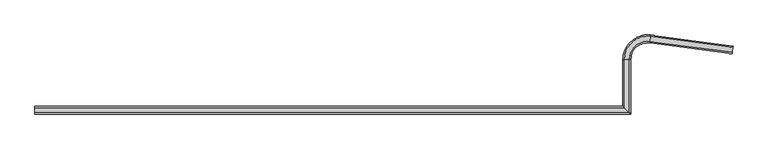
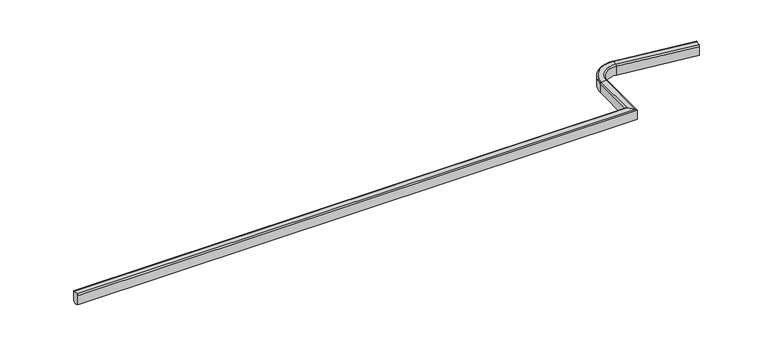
"""IFC4 building model written with IfcOpenShell, lengths in millimetres: railing geometry, Hedge 750mm High."""

from ifc_helpers import new_model, si_unit, point, frame, origin, place, context, project, spatial, polyline, circle_curve, ellipse_curve, trimmed, source, transform, mapped, element, save
from ifc_brep_helpers import plane_surface, cylinder_surface, revolved_surface, advanced_brep


def railing_7c37f561(model_context):
    return source(origin(), model_context, "Body", "AdvancedBrep", [
        advanced_brep(
        [(-6974.4651248, 12008.8683104, 3550.0), (-7014.0748551, 11711.4946914, 3550.0), (-7023.9772877, 11637.1512867, 3475.0), (-7023.9772877, 11637.1512867, 2900.0), (-7000.2114495, 11815.5754581, 2800.0), (-6988.3285304, 11904.7875438, 2800.0), (-6964.5626923, 12083.2117152, 2900.0), (-6964.5626923, 12083.2117152, 3475.0), (-11762.5079616, 12268.3166282, 3475.0), (-11762.5079616, 12268.3166282, 2900.0), (-11712.9957988, 12640.0336519, 3550.0), (-11752.6055291, 12342.6600329, 3550.0), (-12868.0232368, 11300.2905414, 2900.0), (-12868.0232368, 11300.2905414, 3475.0), (-12868.0232368, 8161.332771, 3475.0), (-12868.0232368, 8161.332771, 2900.0), (-12943.0232368, 11300.2905414, 3550.0), (-13243.0232368, 11300.2905414, 3550.0), (-13243.0232368, 8536.332771, 3550.0), (-12943.0232368, 8236.332771, 3550.0), (-47230.3056755, 8536.332771, 3550.0), (-47230.3056755, 8611.332771, 3475.0), (-47230.3056755, 8611.332771, 2900.0), (-47230.3056755, 8431.332771, 2800.0), (-47230.3056755, 8341.332771, 2800.0), (-47230.3056755, 8161.332771, 2900.0), (-47230.3056755, 8161.332771, 3475.0), (-47230.3056755, 8236.332771, 3550.0), (-11738.7421235, 12446.7407996, 2800.0), (-11726.8592044, 12535.9528852, 2800.0), (-11703.0933663, 12714.3770566, 2900.0), (-11703.0933663, 12714.3770566, 3475.0), (-13048.0232368, 11300.2905414, 2800.0), (-13048.0232368, 8341.332771, 2800.0), (-13138.0232368, 11300.2905414, 2800.0), (-13138.0232368, 8431.332771, 2800.0), (-13318.0232368, 11300.2905414, 2900.0), (-13318.0232368, 8611.332771, 2900.0), (-13318.0232368, 11300.2905414, 3475.0), (-13318.0232368, 8611.332771, 3475.0)],
        [
            (0, 1),
            (1, 2, circle_curve(frame((-7014.0748551, 11711.4946914, 3475.0), z_axis=(0.9912453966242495, -0.13203243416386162, 0.0), x_axis=(0.13203243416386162, 0.9912453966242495, 0.0)), 75.0)),
            (2, 3),
            (3, 4),
            (4, 5),
            (5, 6),
            (6, 7),
            (7, 0, circle_curve(frame((-6974.4651248, 12008.8683104, 3475.0), z_axis=(0.9912453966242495, -0.13203243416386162, 0.0), x_axis=(0.13203243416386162, 0.9912453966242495, 0.0)), 75.0)),
            (2, 8),
            (8, 9),
            (9, 3),
            (0, 10),
            (10, 11),
            (11, 1),
            (12, 13),
            (13, 14),
            (14, 15),
            (15, 12),
            (16, 17),
            (17, 18),
            (18, 19),
            (19, 16),
            (20, 21, circle_curve(frame((-47230.3056755, 8536.332771, 3475.0), z_axis=(-1.0, 0.0, 0.0), x_axis=(0.0, 1.0, 0.0)), 75.0)),
            (21, 22),
            (22, 23),
            (23, 24),
            (24, 25),
            (25, 26),
            (26, 27, circle_curve(frame((-47230.3056755, 8236.332771, 3475.0), z_axis=(-1.0, 0.0, 0.0), x_axis=(0.0, 1.0, 0.0)), 75.0)),
            (27, 20),
            (14, 26),
            (25, 15),
            (18, 20),
            (27, 19),
            (11, 8, circle_curve(frame((-11752.6055291, 12342.6600329, 3475.0), z_axis=(0.9912453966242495, -0.13203243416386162, 0.0), x_axis=(0.13203243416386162, 0.9912453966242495, 0.0)), 75.0)),
            (9, 28),
            (28, 4),
            (28, 29),
            (29, 5),
            (29, 30),
            (30, 6),
            (30, 31),
            (31, 7),
            (31, 10, circle_curve(frame((-11712.9957988, 12640.0336519, 3475.0), z_axis=(0.9912453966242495, -0.13203243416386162, 0.0), x_axis=(0.13203243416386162, 0.9912453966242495, 0.0)), 75.0)),
            (13, 16, circle_curve(frame((-12943.0232368, 11300.2905414, 3475.0), z_axis=(0.0, -1.0, 0.0), x_axis=(-1.0, 0.0, 0.0)), 75.0)),
            (19, 14, ellipse_curve(frame((-12943.0232368, 8236.332771, 3475.0), z_axis=(0.7071067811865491, 0.7071067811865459, 0.0), x_axis=(-0.7071067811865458, 0.7071067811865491, 0.0)), 106.0660172, 75.0)),
            (32, 12),
            (15, 33),
            (33, 32),
            (34, 32),
            (33, 35),
            (35, 34),
            (36, 34),
            (35, 37),
            (37, 36),
            (38, 36),
            (37, 39),
            (39, 38),
            (17, 38, circle_curve(frame((-13243.0232368, 11300.2905414, 3475.0), z_axis=(0.0, -1.0, 0.0), x_axis=(-1.0, 0.0, 0.0)), 75.0)),
            (39, 18, ellipse_curve(frame((-13243.0232368, 8536.332771, 3475.0), z_axis=(0.7071067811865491, 0.7071067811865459, 0.0), x_axis=(-0.7071067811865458, 0.7071067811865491, 0.0)), 106.0660172, 75.0)),
            (24, 33),
            (23, 35),
            (22, 37),
            (21, 39),
            (16, 11, circle_curve(frame((-11891.4476178, 11300.2905414, 3550.0), z_axis=(0.0, 0.0, -1.0), x_axis=(0.13203243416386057, 0.9912453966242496, 0.0)), 1051.575619)),
            (10, 17, circle_curve(frame((-11891.4476178, 11300.2905414, 3550.0), z_axis=(0.0, 0.0, 1.0), x_axis=(0.13203243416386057, 0.9912453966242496, 0.0)), 1351.575619)),
            (13, 8, circle_curve(frame((-11891.4476178, 11300.2905414, 3475.0), z_axis=(0.0, 0.0, -1.0), x_axis=(0.13203243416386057, 0.9912453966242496, 0.0)), 976.575619)),
            (12, 9, circle_curve(frame((-11891.4476178, 11300.2905414, 2900.0), z_axis=(0.0, 0.0, -1.0), x_axis=(0.13203243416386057, 0.9912453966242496, 0.0)), 976.575619)),
            (32, 28, circle_curve(frame((-11891.4476178, 11300.2905414, 2800.0), z_axis=(0.0, 0.0, -1.0), x_axis=(0.13203243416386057, 0.9912453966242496, 0.0)), 1156.575619)),
            (34, 29, circle_curve(frame((-11891.4476178, 11300.2905414, 2800.0), z_axis=(0.0, 0.0, -1.0), x_axis=(0.13203243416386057, 0.9912453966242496, 0.0)), 1246.575619)),
            (36, 30, circle_curve(frame((-11891.4476178, 11300.2905414, 2900.0), z_axis=(0.0, 0.0, -1.0), x_axis=(0.13203243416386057, 0.9912453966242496, 0.0)), 1426.575619)),
            (38, 31, circle_curve(frame((-11891.4476178, 11300.2905414, 3475.0), z_axis=(0.0, 0.0, -1.0), x_axis=(0.13203243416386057, 0.9912453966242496, 0.0)), 1426.575619)),
        ],
        [
            plane_surface(frame((-6993.2470991, 11867.8609461, 3550.0), z_axis=(0.9912453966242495, -0.13203243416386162, 0.0), x_axis=(0.13203243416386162, 0.9912453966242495, 0.0))),
            plane_surface(frame((-7023.9772877, 11637.1512867, 3475.0), z_axis=(-0.13203243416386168, -0.9912453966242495, 0.0), x_axis=(-0.9912453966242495, 0.13203243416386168, 0.0))),
            plane_surface(frame((-6974.4651248, 12008.8683104, 3550.0), z_axis=(0.0, 0.0, 1.0), x_axis=(-0.9912453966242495, 0.1320324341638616, 0.0))),
            plane_surface(frame((-12868.0232368, 11300.2905414, 3475.0), z_axis=(1.0, 0.0, 0.0), x_axis=(0.0, -1.0, 0.0))),
            plane_surface(frame((-13243.0232368, 11300.2905414, 3550.0), z_axis=(0.0, 0.0, 1.0), x_axis=(0.0, -1.0, 0.0))),
            plane_surface(frame((-47230.3056755, 8394.0800404, 3550.0), z_axis=(-1.0, 0.0, 0.0), x_axis=(0.0, -1.0, 0.0))),
            plane_surface(frame((-12868.0232368, 8161.332771, 3475.0), z_axis=(0.0, -1.0, 0.0), x_axis=(-1.0, 0.0, 0.0))),
            plane_surface(frame((-13243.0232368, 8536.332771, 3550.0), z_axis=(0.0, 0.0, 1.0), x_axis=(-1.0, 0.0, 0.0))),
            cylinder_surface(frame((-7014.0748551, 11711.4946914, 3475.0), z_axis=(0.9912453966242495, -0.13203243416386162, 0.0), x_axis=(0.13203243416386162, 0.9912453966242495, 0.0)), 75.0),
            plane_surface(frame((-7023.9772877, 11637.1512867, 2900.0), z_axis=(-0.06412061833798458, -0.4813913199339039, -0.8741572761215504), x_axis=(-0.9912453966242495, 0.13203243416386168, 0.0))),
            plane_surface(frame((-7000.2114495, 11815.5754581, 2800.0), z_axis=(0.0, 0.0, -1.0), x_axis=(-0.9912453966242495, 0.13203243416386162, 0.0))),
            plane_surface(frame((-6988.3285304, 11904.7875438, 2800.0), z_axis=(0.06412061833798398, 0.4813913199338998, -0.8741572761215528), x_axis=(-0.9912453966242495, 0.1320324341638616, 0.0))),
            plane_surface(frame((-6964.5626923, 12083.2117152, 2900.0), z_axis=(0.1320324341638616, 0.9912453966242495, 0.0), x_axis=(-0.9912453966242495, 0.1320324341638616, 0.0))),
            cylinder_surface(frame((-6974.4651248, 12008.8683104, 3475.0), z_axis=(0.9912453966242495, -0.13203243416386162, 0.0), x_axis=(0.13203243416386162, 0.9912453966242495, 0.0)), 75.0),
            cylinder_surface(frame((-12943.0232368, 11300.2905414, 3475.0), z_axis=(0.0, 1.0, 0.0), x_axis=(-1.0, 0.0, 0.0)), 75.0),
            plane_surface(frame((-12868.0232368, 11300.2905414, 2900.0), z_axis=(0.4856429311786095, 0.0, -0.8741572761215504), x_axis=(0.0, -1.0, 0.0))),
            plane_surface(frame((-13048.0232368, 11300.2905414, 2800.0), z_axis=(0.0, 0.0, -1.0), x_axis=(0.0, -1.0, 0.0))),
            plane_surface(frame((-13138.0232368, 11300.2905414, 2800.0), z_axis=(-0.48564293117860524, 0.0, -0.8741572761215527), x_axis=(0.0, -1.0, 0.0))),
            plane_surface(frame((-13318.0232368, 11300.2905414, 2900.0), z_axis=(-1.0, 0.0, 0.0), x_axis=(0.0, -1.0, 0.0))),
            cylinder_surface(frame((-13243.0232368, 11300.2905414, 3475.0), z_axis=(0.0, 1.0, 0.0), x_axis=(-1.0, 0.0, 0.0)), 75.0),
            cylinder_surface(frame((-13100.7705062, 8236.332771, 3475.0), z_axis=(1.0, 0.0, 0.0), x_axis=(0.0, 1.0, 0.0)), 75.0),
            plane_surface(frame((-12868.0232368, 8161.332771, 2900.0), z_axis=(0.0, -0.4856429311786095, -0.8741572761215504), x_axis=(-1.0, 0.0, 0.0))),
            plane_surface(frame((-13048.0232368, 8341.332771, 2800.0), z_axis=(0.0, 0.0, -1.0), x_axis=(-1.0, 0.0, 0.0))),
            plane_surface(frame((-13138.0232368, 8431.332771, 2800.0), z_axis=(0.0, 0.48564293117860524, -0.8741572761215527), x_axis=(-1.0, 0.0, 0.0))),
            plane_surface(frame((-13318.0232368, 8611.332771, 2900.0), z_axis=(0.0, 1.0, 0.0), x_axis=(-1.0, 0.0, 0.0))),
            cylinder_surface(frame((-13100.7705062, 8536.332771, 3475.0), z_axis=(1.0, 0.0, 0.0), x_axis=(0.0, 1.0, 0.0)), 75.0),
            plane_surface(frame((-11891.4476178, 11300.2905414, 3550.0), z_axis=(0.0, 0.0, 1.0), x_axis=(0.13203243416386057, 0.9912453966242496, 0.0))),
            revolved_surface(trimmed(ellipse_curve(frame((-11752.6055291, 12342.6600329, 3475.0), z_axis=(0.9912453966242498, -0.13203243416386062, 0.0), x_axis=(0.1320324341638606, 0.9912453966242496, 0.0)), 75.0, 75.0), [point((-11752.6055291, 12342.6600329, 3550.0))], [point((-11762.5079616, 12268.3166282, 3475.0))], True, "CARTESIAN"), (-11891.4476178, 11300.2905414, 3550.0), (0.0, 0.0, 1.0000000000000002)),
            revolved_surface(polyline([(-11762.507961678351, 12268.316628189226, 3475.0), (-11762.507961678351, 12268.316628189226, 2900.0)]), (-11891.4476178, 11300.2905414, 3550.0), (0.0, 0.0, 1.0000000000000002)),
            revolved_surface(polyline([(-11762.5079616, 12268.3166282, 2900.0), (-11738.7421235, 12446.7407996, 2800.0)]), (-11891.4476178, 11300.2905414, 3550.0), (0.0, 0.0, 1.0000000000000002)),
            plane_surface(frame((-11891.4476178, 11300.2905414, 2800.0), z_axis=(0.0, 0.0, -1.0), x_axis=(0.13203243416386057, 0.9912453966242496, 0.0))),
            revolved_surface(polyline([(-11726.8592044, 12535.9528852, 2800.0), (-11703.0933663, 12714.3770566, 2900.0)]), (-11891.4476178, 11300.2905414, 3550.0), (0.0, 0.0, 1.0000000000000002)),
            cylinder_surface(frame((-11891.4476178, 11300.2905414, 3550.0), z_axis=(0.0, 0.0, 1.0000000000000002), x_axis=(0.13203243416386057, 0.9912453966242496, 0.0)), 1426.575619),
            revolved_surface(trimmed(ellipse_curve(frame((-11712.9957988, 12640.0336519, 3475.0), z_axis=(0.9912453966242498, -0.13203243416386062, 0.0), x_axis=(0.1320324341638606, 0.9912453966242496, 0.0)), 75.0, 75.0), [point((-11703.0933663, 12714.3770566, 3475.0))], [point((-11712.9957988, 12640.0336519, 3550.0))], True, "CARTESIAN"), (-11891.4476178, 11300.2905414, 3550.0), (0.0, 0.0, 1.0000000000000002)),
        ],
        [
            (0, [[1, 2, 3, 4, 5, 6, 7, 8]]),
            (1, [[-3, 9, 10, 11]]),
            (2, [[-1, 12, 13, 14]]),
            (3, [[15, 16, 17, 18]]),
            (4, [[19, 20, 21, 22]]),
            (5, [[23, 24, 25, 26, 27, 28, 29, 30]]),
            (6, [[-17, 31, -28, 32]]),
            (7, [[-21, 33, -30, 34]]),
            (8, [[-2, -14, 35, -9]]),
            (9, [[-4, -11, 36, 37]]),
            (10, [[-5, -37, 38, 39]]),
            (11, [[-6, -39, 40, 41]]),
            (12, [[-7, -41, 42, 43]]),
            (13, [[-8, -43, 44, -12]]),
            (14, [[45, -22, 46, -16]]),
            (15, [[47, -18, 48, 49]]),
            (16, [[50, -49, 51, 52]]),
            (17, [[53, -52, 54, 55]]),
            (18, [[56, -55, 57, 58]]),
            (19, [[59, -58, 60, -20]]),
            (20, [[-46, -34, -29, -31]]),
            (21, [[-48, -32, -27, 61]]),
            (22, [[-51, -61, -26, 62]]),
            (23, [[-54, -62, -25, 63]]),
            (24, [[-57, -63, -24, 64]]),
            (25, [[-60, -64, -23, -33]]),
            (26, [[65, -13, 66, -19]]),
            (27, [[67, -35, -65, -45]]),
            (28, [[68, -10, -67, -15]]),
            (29, [[69, -36, -68, -47]]),
            (30, [[70, -38, -69, -50]]),
            (31, [[71, -40, -70, -53]]),
            (32, [[72, -42, -71, -56]]),
            (33, [[-66, -44, -72, -59]]),
        ],
    ),
    ])


if __name__ == "__main__":
    model = new_model("IFC4")
    model_context = context("Model", 3, world=origin())
    ifc_project = project(units=[si_unit("LENGTHUNIT", "METRE", prefix="MILLI")], contexts=[model_context])
    site = spatial("IfcSite", under=ifc_project)
    building = spatial("IfcBuilding", under=site)
    placement = place(None, origin())
    railing_shape = railing_7c37f561(model_context)
    element("IfcRailing", 1, ObjectType="Hedge 750mm High", at=placement, inside=building, context=model_context, shape_type="MappedRepresentation", body=[
        mapped(railing_shape, transform((0.0, 0.0, 0.0), x_axis=(1.0, 0.0, 0.0), y_axis=(0.0, 1.0, 0.0), z_axis=(0.0, 0.0, 1.0))),
    ])
    save(model, "model.ifc")
